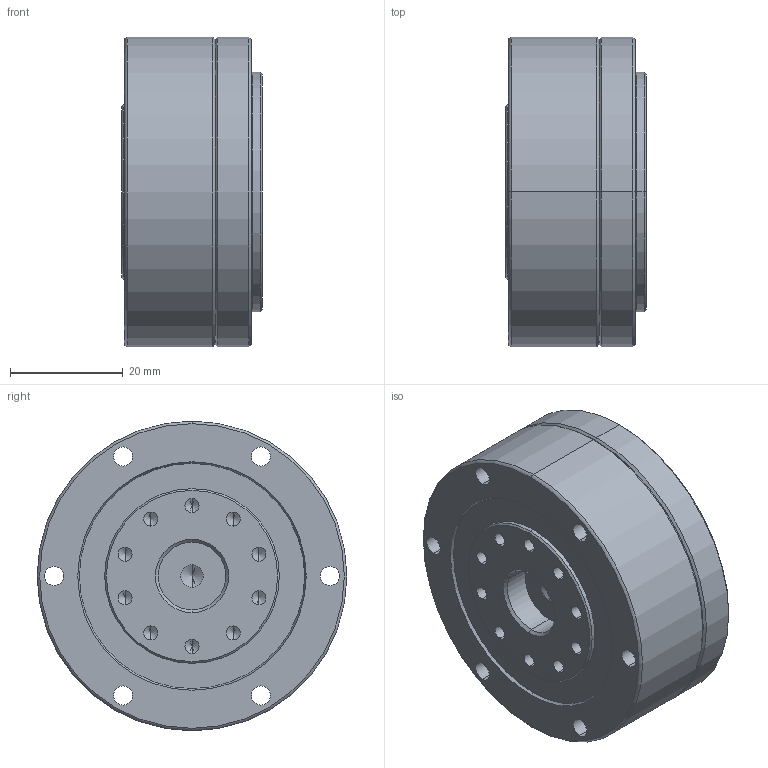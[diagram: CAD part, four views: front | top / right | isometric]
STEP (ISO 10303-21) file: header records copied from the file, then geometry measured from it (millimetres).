
FILE_DESCRIPTION((''),'2;1');
FILE_NAME('LCD-14-XXX-C-I-ST_ASM','2019-10-23T',('Administrator'),(''),'PRO/ENGINEER BY PARAMETRIC TECHNOLOGY CORPORATION, 2014200','PRO/ENGINEER BY PARAMETRIC TECHNOLOGY CORPORATION, 2014200','');
FILE_SCHEMA(('AUTOMOTIVE_DESIGN { 1 0 10303 214 1 1 1 1 }'));
Length unit declared in the file: millimetre
Products named in the file (10): RZC-14-ST内外圈_钢球; RZC-14-ST悵厥殤; LCD-14-XXX-P02-I-ST; LCD-14-XXX-P01-I-ST; LCD-14-XXX-P04-I-ST; 内六角圆柱头螺钉M2_X_8; 内六角圆柱头螺钉M3_X_12; PRT0142; PRT0143; LCD-14-XXX-C-I-ST_ASM
Assembly tree (20 placements, depth 2):
  LCD-14-XXX-C-I-ST_ASM
    RZC-14-ST内外圈_钢球
    RZC-14-ST悵厥殤
    LCD-14-XXX-P02-I-ST
    LCD-14-XXX-P01-I-ST
    LCD-14-XXX-P04-I-ST
    内六角圆柱头螺钉M2_X_8  x3
    内六角圆柱头螺钉M3_X_12  x10
    PRT0142
    PRT0143
Bounding box: 25 x 55 x 55 mm (x, y, z)
Volume: 45662.4 mm3; surface area: 34214.4 mm2
Topology: 22 solids, 28 shells, 919 faces, 2396 edges, 1425 vertices
Faces by surface type: cylinder 324, plane 284, cone 140, torus 125, sphere 46
Entity records: 22415 total; most frequent: CARTESIAN_POINT 4105, DIRECTION 3741, ORIENTED_EDGE 3198, AXIS2_PLACEMENT_3D 1619, EDGE_CURVE 1614, VERTEX_POINT 1062, CIRCLE 965, EDGE_LOOP 748
